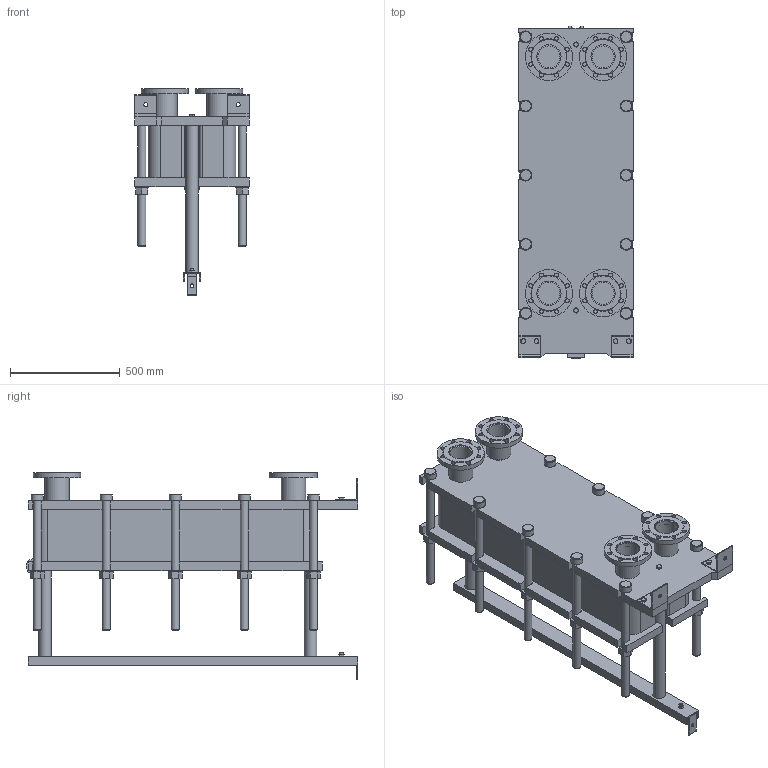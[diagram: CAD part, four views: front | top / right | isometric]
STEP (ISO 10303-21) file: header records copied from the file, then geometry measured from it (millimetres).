
FILE_DESCRIPTION(/* description */ (''),/* implementation_level */ '2;1');
FILE_NAME(/* name */ 'C:\Users\zhuro\Desktop\ENCO\TO\ЭН-04\ЭН-0,5-04-69-1.stp',/* time_stamp */ '2022-06-06T10:50:33+03:00',/* author */ ('zhuro'),/* organization */ (''),/* preprocessor_version */ 'ST-DEVELOPER v18.1',/* originating_system */ 'Autodesk Inventor 2022',/* authorisation */ '');
FILE_SCHEMA (('AUTOMOTIVE_DESIGN { 1 0 10303 214 3 1 1 }'));
Length unit declared in the file: millimetre
Products named in the file (1): ЭН-0,5-04-69-1
Bounding box: 520 x 1510 x 944.5 mm (x, y, z)
Volume: 188504001.4 mm3; surface area: 7673569 mm2
Topology: 45 solids, 45 shells, 668 faces, 1611 edges, 1048 vertices
Faces by surface type: plane 457, cylinder 166, cone 39, torus 6
Full cylindrical faces by diameter (mm): 8 x4, 10 x2, 16 x8, 18 x35, 36 x25, 40 x2, 42 x1, 45 x4, 54 x10, 57 x2, 60 x10, 68 x2, 100 x4, 110 x8, 215 x4
Entity records: 23607 total; most frequent: CARTESIAN_POINT 7348, DIRECTION 3371, ORIENTED_EDGE 3142, EDGE_CURVE 1571, AXIS2_PLACEMENT_3D 1199, VERTEX_POINT 1044, LINE 973, VECTOR 973
